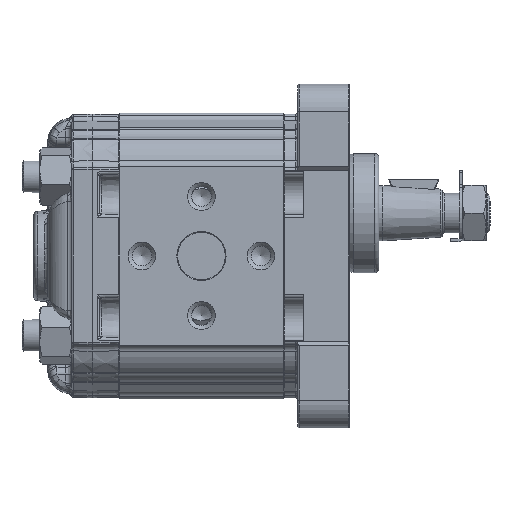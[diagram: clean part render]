
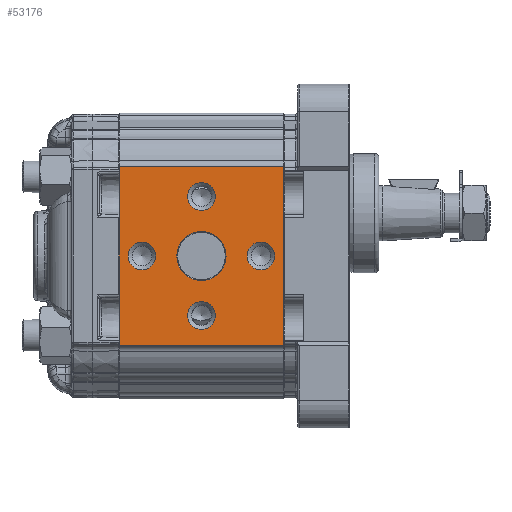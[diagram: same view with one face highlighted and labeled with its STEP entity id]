
A CAD part, left-side view. The second image highlights one B-rep face of the part: STEP entity #53176.
In plain terms, the highlighted planar face has unit normal (-1, 0, 0).
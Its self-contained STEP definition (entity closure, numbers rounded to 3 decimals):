
#2165=LINE('',#75281,#4174);
#2175=LINE('',#75382,#4184);
#2194=LINE('',#75430,#4203);
#2195=LINE('',#75432,#4204);
#4174=VECTOR('',#62812,1000.);
#4184=VECTOR('',#62904,1000.);
#4203=VECTOR('',#62959,1000.);
#4204=VECTOR('',#62962,1000.);
#10860=ORIENTED_EDGE('',*,*,#20215,.T.);
#10861=ORIENTED_EDGE('',*,*,#20216,.T.);
#10862=ORIENTED_EDGE('',*,*,#20217,.T.);
#10863=ORIENTED_EDGE('',*,*,#20218,.T.);
#10864=ORIENTED_EDGE('',*,*,#20219,.T.);
#10865=ORIENTED_EDGE('',*,*,#20195,.T.);
#10866=ORIENTED_EDGE('',*,*,#20167,.T.);
#10867=ORIENTED_EDGE('',*,*,#20196,.T.);
#10868=ORIENTED_EDGE('',*,*,#20117,.F.);
#20117=EDGE_CURVE('',#25068,#25069,#2165,.T.);
#20167=EDGE_CURVE('',#25119,#25118,#2175,.T.);
#20195=EDGE_CURVE('',#25068,#25119,#2194,.T.);
#20196=EDGE_CURVE('',#25118,#25069,#2195,.F.);
#20215=EDGE_CURVE('',#25138,#25138,#28203,.F.);
#20216=EDGE_CURVE('',#25139,#25139,#28204,.F.);
#20217=EDGE_CURVE('',#25140,#25140,#28205,.F.);
#20218=EDGE_CURVE('',#25141,#25141,#28206,.F.);
#20219=EDGE_CURVE('',#25142,#25142,#28207,.F.);
#25068=VERTEX_POINT('',#75280);
#25069=VERTEX_POINT('',#75282);
#25118=VERTEX_POINT('',#75381);
#25119=VERTEX_POINT('',#75383);
#25138=VERTEX_POINT('',#75555);
#25139=VERTEX_POINT('',#75557);
#25140=VERTEX_POINT('',#75559);
#25141=VERTEX_POINT('',#75561);
#25142=VERTEX_POINT('',#75563);
#28203=CIRCLE('',#56392,3.5);
#28204=CIRCLE('',#56393,3.5);
#28205=CIRCLE('',#56394,3.5);
#28206=CIRCLE('',#56395,3.5);
#28207=CIRCLE('',#56396,6.2);
#30394=EDGE_LOOP('',(#10860));
#30395=EDGE_LOOP('',(#10861));
#30396=EDGE_LOOP('',(#10862));
#30397=EDGE_LOOP('',(#10863));
#30398=EDGE_LOOP('',(#10864));
#30399=EDGE_LOOP('',(#10865,#10866,#10867,#10868));
#33133=FACE_BOUND('',#30394,.T.);
#33134=FACE_BOUND('',#30395,.T.);
#33135=FACE_BOUND('',#30396,.T.);
#33136=FACE_BOUND('',#30397,.T.);
#33137=FACE_BOUND('',#30398,.T.);
#33138=FACE_BOUND('',#30399,.T.);
#35169=PLANE('',#56391);
#53176=ADVANCED_FACE('',(#33133,#33134,#33135,#33136,#33137,#33138),#35169,
 .T.);
#56391=AXIS2_PLACEMENT_3D('',#75553,#63005,#63006);
#56392=AXIS2_PLACEMENT_3D('',#75554,#63007,#63008);
#56393=AXIS2_PLACEMENT_3D('',#75556,#63009,#63010);
#56394=AXIS2_PLACEMENT_3D('',#75558,#63011,#63012);
#56395=AXIS2_PLACEMENT_3D('',#75560,#63013,#63014);
#56396=AXIS2_PLACEMENT_3D('',#75562,#63015,#63016);
#62812=DIRECTION('',(0.,0.,1.));
#62904=DIRECTION('',(0.,0.,1.));
#62959=DIRECTION('',(0.,-1.,0.));
#62962=DIRECTION('',(0.,-1.,0.));
#63005=DIRECTION('',(-1.,0.,0.));
#63006=DIRECTION('',(0.,0.,1.));
#63007=DIRECTION('',(-1.,0.,0.));
#63008=DIRECTION('',(0.,0.,1.));
#63009=DIRECTION('',(-1.,0.,0.));
#63010=DIRECTION('',(0.,0.,1.));
#63011=DIRECTION('',(-1.,0.,0.));
#63012=DIRECTION('',(0.,0.,1.));
#63013=DIRECTION('',(-1.,0.,0.));
#63014=DIRECTION('',(0.,0.,1.));
#63015=DIRECTION('',(-1.,0.,0.));
#63016=DIRECTION('',(0.,0.,1.));
#75280=CARTESIAN_POINT('',(-33.,41.5,-22.5));
#75281=CARTESIAN_POINT('',(-33.,41.5,-21.711));
#75282=CARTESIAN_POINT('',(-33.,41.5,22.5));
#75381=CARTESIAN_POINT('',(-33.,0.,22.5));
#75382=CARTESIAN_POINT('',(-33.,0.,-21.711));
#75383=CARTESIAN_POINT('',(-33.,0.,-22.5));
#75430=CARTESIAN_POINT('',(-33.,41.5,-22.5));
#75432=CARTESIAN_POINT('',(-33.,41.5,22.5));
#75553=CARTESIAN_POINT('',(-33.,124.842,48.138));
#75554=CARTESIAN_POINT('',(-33.,20.75,-15.));
#75555=CARTESIAN_POINT('',(-33.,20.75,-11.5));
#75556=CARTESIAN_POINT('',(-33.,5.75,0.));
#75557=CARTESIAN_POINT('',(-33.,5.75,3.5));
#75558=CARTESIAN_POINT('',(-33.,20.75,15.));
#75559=CARTESIAN_POINT('',(-33.,20.75,18.5));
#75560=CARTESIAN_POINT('',(-33.,35.75,0.));
#75561=CARTESIAN_POINT('',(-33.,35.75,3.5));
#75562=CARTESIAN_POINT('',(-33.,20.75,0.));
#75563=CARTESIAN_POINT('',(-33.,20.75,6.2));
